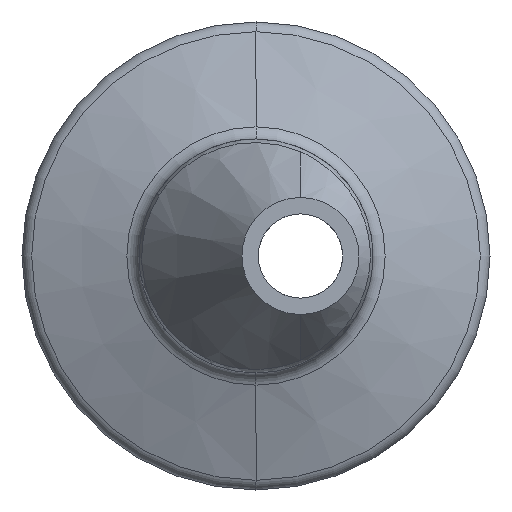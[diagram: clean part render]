
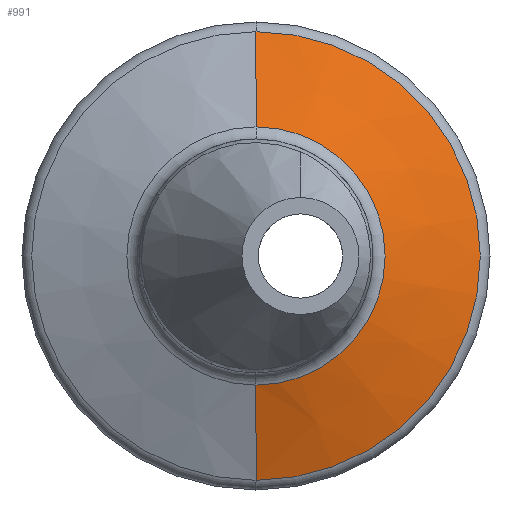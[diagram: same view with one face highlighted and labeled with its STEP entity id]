
A CAD part, left-side view. The second image highlights one B-rep face of the part: STEP entity #991.
In plain terms, the highlighted conical face has half-angle 70 degrees and reference radius 7.008 mm.
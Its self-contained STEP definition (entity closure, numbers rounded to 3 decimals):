
#150 = EDGE_CURVE ( 'NONE', #384, #1539, #261, .T. ) ;
#177 = DIRECTION ( 'NONE',  ( 0.342, 0., -0.94 ) ) ;
#234 = AXIS2_PLACEMENT_3D ( 'NONE', #615, #611, #610 ) ;
#261 = CIRCLE ( 'NONE', #234, 12.174 ) ;
#270 = CONICAL_SURFACE ( 'NONE', #348, 7.008, 1.222 ) ;
#299 = FACE_OUTER_BOUND ( 'NONE', #517, .T. ) ;
#348 = AXIS2_PLACEMENT_3D ( 'NONE', #631, #954, #705 ) ;
#384 = VERTEX_POINT ( 'NONE', #1180 ) ;
#429 = CARTESIAN_POINT ( 'NONE',  ( 24.491, 0., -7.008 ) ) ;
#517 = EDGE_LOOP ( 'NONE', ( #814, #1374, #1627, #880 ) ) ;
#554 = CARTESIAN_POINT ( 'NONE',  ( 24.491, 0., 7.008 ) ) ;
#610 = DIRECTION ( 'NONE',  ( 0., 0., 1. ) ) ;
#611 = DIRECTION ( 'NONE',  ( -1., 0., 0. ) ) ;
#615 = CARTESIAN_POINT ( 'NONE',  ( 26.371, 0., 0. ) ) ;
#617 = CIRCLE ( 'NONE', #1190, 7.008 ) ;
#631 = CARTESIAN_POINT ( 'NONE',  ( 24.491, 0., 0. ) ) ;
#677 = CARTESIAN_POINT ( 'NONE',  ( 24.491, 0., 0. ) ) ;
#682 = DIRECTION ( 'NONE',  ( -1., 0., 0. ) ) ;
#695 = DIRECTION ( 'NONE',  ( 0., 0., 1. ) ) ;
#705 = DIRECTION ( 'NONE',  ( 0., 0., -1. ) ) ;
#814 = ORIENTED_EDGE ( 'NONE', *, *, #1504, .F. ) ;
#880 = ORIENTED_EDGE ( 'NONE', *, *, #150, .T. ) ;
#951 = EDGE_CURVE ( 'NONE', #1547, #1731, #617, .T. ) ;
#954 = DIRECTION ( 'NONE',  ( 1., 0., 0. ) ) ;
#991 = ADVANCED_FACE ( 'NONE', ( #299 ), #270, .T. ) ;
#1180 = CARTESIAN_POINT ( 'NONE',  ( 26.371, 0., -12.174 ) ) ;
#1190 = AXIS2_PLACEMENT_3D ( 'NONE', #677, #682, #695 ) ;
#1262 = CARTESIAN_POINT ( 'NONE',  ( 24.491, 0., -7.008 ) ) ;
#1288 = EDGE_CURVE ( 'NONE', #1547, #384, #1448, .T. ) ;
#1289 = CARTESIAN_POINT ( 'NONE',  ( 26.371, 0., 12.174 ) ) ;
#1374 = ORIENTED_EDGE ( 'NONE', *, *, #951, .F. ) ;
#1408 = VECTOR ( 'NONE', #177, 1000. ) ;
#1448 = LINE ( 'NONE', #429, #1408 ) ;
#1504 = EDGE_CURVE ( 'NONE', #1731, #1539, #1609, .T. ) ;
#1539 = VERTEX_POINT ( 'NONE', #1289 ) ;
#1547 = VERTEX_POINT ( 'NONE', #1262 ) ;
#1588 = CARTESIAN_POINT ( 'NONE',  ( 24.491, 0., 7.008 ) ) ;
#1609 = LINE ( 'NONE', #1588, #1650 ) ;
#1627 = ORIENTED_EDGE ( 'NONE', *, *, #1288, .T. ) ;
#1646 = DIRECTION ( 'NONE',  ( 0.342, 0., 0.94 ) ) ;
#1650 = VECTOR ( 'NONE', #1646, 1000. ) ;
#1731 = VERTEX_POINT ( 'NONE', #554 ) ;
